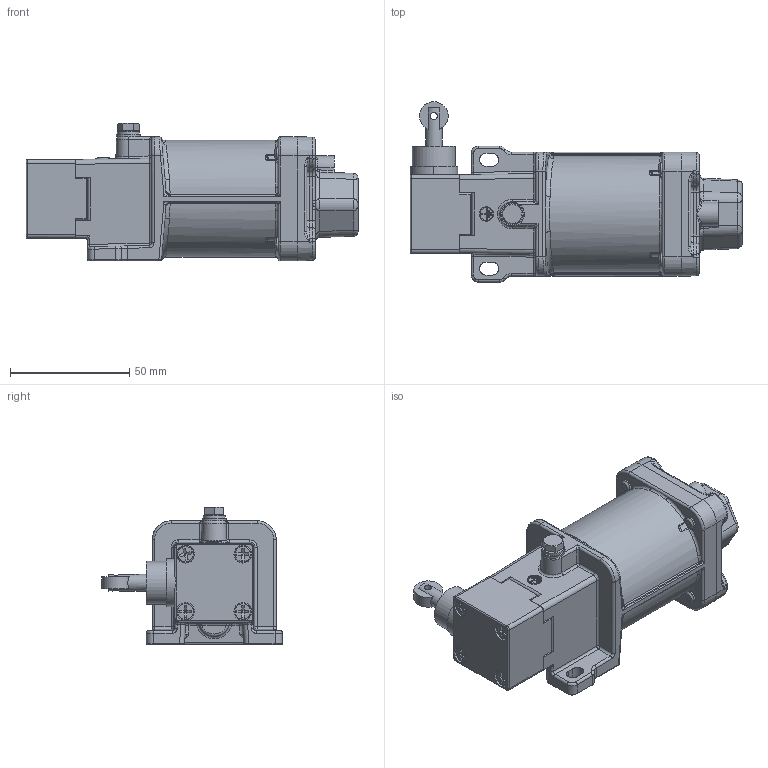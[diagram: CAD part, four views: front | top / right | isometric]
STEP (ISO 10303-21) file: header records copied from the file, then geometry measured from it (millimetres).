
FILE_DESCRIPTION((''),'2;1');
FILE_NAME('\\192.168.5.25\cortem_klient\INVENTOR БАЗА МОДЕЛЕЙ\Актуальная база моделей для отдела продаж\ДВГ-КВ\ДВГ-КВ-E22_М20х1,5.stp','2020-03-25T13:18:00',('K.S.Bezzubikov'),(''),'Autodesk Inventor 2012','Autodesk Inventor 2012','');
FILE_SCHEMA(('AUTOMOTIVE_DESIGN { 1 0 10303 214 1 1 1 1 }'));
Length unit declared in the file: millimetre
Products named in the file (1): ДВГ-КВ-E21К1_М20х1,5_Внешний контур_1
Bounding box: 139.15 x 75.6 x 57.7 mm (x, y, z)
Volume: 138321 mm3; surface area: 63672 mm2
Topology: 2 solids, 19 shells, 1432 faces, 3378 edges, 1987 vertices
Faces by surface type: plane 546, cylinder 408, bspline 304, torus 112, cone 46, sphere 16
Full cylindrical faces by diameter (mm): 1.76 x1, 2.51 x1, 3 x1, 3.2 x5, 3.7 x1, 3.76 x1, 4.1 x1, 4.567 x1, 4.988 x8, 5 x4, 5.2 x4, 5.3 x1, 5.4 x5, 6 x1, 6.5 x1, 6.7 x1, 7 x1, 8.4 x1, 8.5 x4, 9.5 x4, 10 x1, 16 x1, 18 x1, 18.4 x1, 22 x1, 24.6 x1, 28.5 x1, 36.2 x1, 41.94 x1, 42 x1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
Entity records: 59391 total; most frequent: CARTESIAN_POINT 27741, ORIENTED_EDGE 6360, DIRECTION 5986, EDGE_CURVE 3180, AXIS2_PLACEMENT_3D 2264, VERTEX_POINT 1947, EDGE_LOOP 1633, VECTOR 1458
